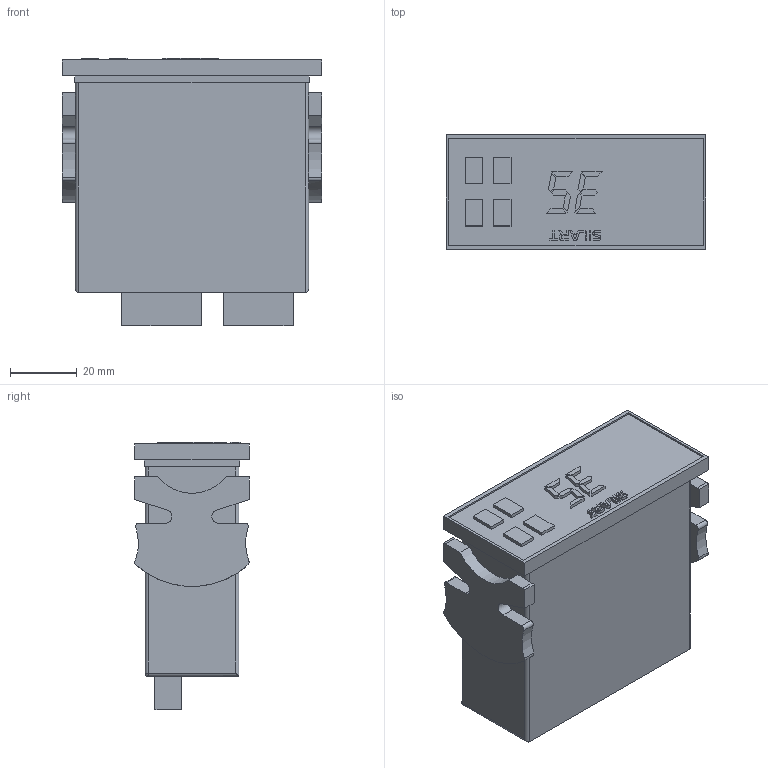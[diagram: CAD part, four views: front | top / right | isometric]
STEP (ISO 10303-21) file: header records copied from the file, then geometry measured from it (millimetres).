
FILE_DESCRIPTION(('STEP AP214'), '1');
FILE_NAME('扻艜豂錭歑 SLR-002B', '', ('UNSPECIFIED'), ('UNSPECIFIED'), 'C3D Converter', 'C3D Toolkit', '');
FILE_SCHEMA(('AUTOMOTIVE_DESIGN { 1 0 10303 214 3 1 1}'));
Length unit declared in the file: millimetre
Products named in the file (1): SLR-002B
Bounding box: 78 x 34.5 x 80.3 mm (x, y, z)
Volume: 150448.4 mm3; surface area: 22759.7 mm2
Topology: 1 solids, 1 shells, 261 faces, 677 edges, 442 vertices
Faces by surface type: plane 205, cylinder 54, sphere 2
Entity records: 9994 total; most frequent: CARTESIAN_POINT 1388, ORIENTED_EDGE 1350, DIRECTION 1304, EDGE_CURVE 675, LINE 564, VECTOR 564, VERTEX_POINT 442, AXIS2_PLACEMENT_3D 370
